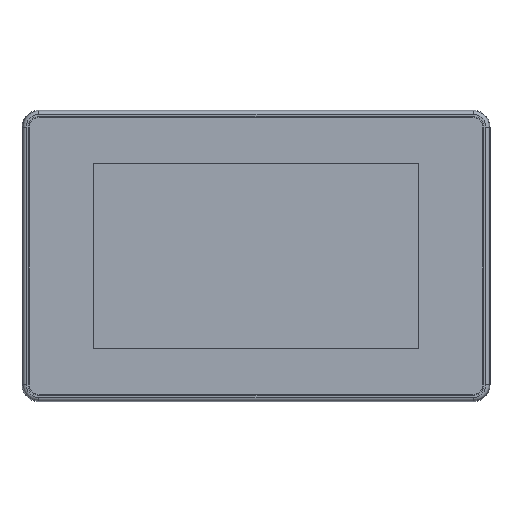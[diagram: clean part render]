
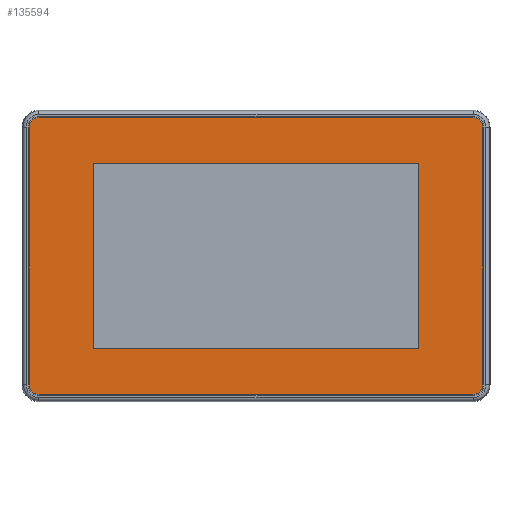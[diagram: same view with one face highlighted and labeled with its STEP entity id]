
A CAD part, top view. The second image highlights one B-rep face of the part: STEP entity #135594.
In plain terms, the highlighted planar face has unit normal (0, 0, 1).
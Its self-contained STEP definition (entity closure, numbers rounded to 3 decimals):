
#118132=DIRECTION('',(0.,-1.,0.));
#118133=VECTOR('',#118132,75.715);
#118134=CARTESIAN_POINT('',(-66.857,37.857,5.88));
#118135=LINE('',#118134,#118133);
#118148=CARTESIAN_POINT('',(63.857,37.857,5.88));
#118149=DIRECTION('',(0.,0.,-1.));
#118150=DIRECTION('',(0.,1.,0.));
#118151=AXIS2_PLACEMENT_3D('',#118148,#118149,#118150);
#118153=DIRECTION('',(0.,-1.,0.));
#118154=VECTOR('',#118153,75.715);
#118155=CARTESIAN_POINT('',(66.857,37.857,5.88));
#118156=LINE('',#118155,#118154);
#118157=CARTESIAN_POINT('',(63.857,-37.857,5.88));
#118158=DIRECTION('',(0.,0.,-1.));
#118159=DIRECTION('',(1.,0.,0.));
#118160=AXIS2_PLACEMENT_3D('',#118157,#118158,#118159);
#118162=DIRECTION('',(-1.,0.,0.));
#118163=VECTOR('',#118162,127.715);
#118164=CARTESIAN_POINT('',(63.857,-40.857,5.88));
#118165=LINE('',#118164,#118163);
#118166=CARTESIAN_POINT('',(-63.857,-37.857,5.88));
#118167=DIRECTION('',(0.,0.,-1.));
#118168=DIRECTION('',(0.,-1.,0.));
#118169=AXIS2_PLACEMENT_3D('',#118166,#118167,#118168);
#118171=CARTESIAN_POINT('',(-63.857,37.857,5.88));
#118172=DIRECTION('',(0.,0.,-1.));
#118173=DIRECTION('',(-1.,0.,0.));
#118174=AXIS2_PLACEMENT_3D('',#118171,#118172,#118173);
#118176=DIRECTION('',(1.,0.,0.));
#118177=VECTOR('',#118176,127.715);
#118178=CARTESIAN_POINT('',(-63.857,40.857,5.88));
#118179=LINE('',#118178,#118177);
#118180=DIRECTION('',(0.,1.,0.));
#118181=VECTOR('',#118180,54.36);
#118182=CARTESIAN_POINT('',(-47.77,-27.18,5.88));
#118183=LINE('',#118182,#118181);
#118188=DIRECTION('',(1.,0.,0.));
#118189=VECTOR('',#118188,95.54);
#118190=CARTESIAN_POINT('',(-47.77,27.18,5.88));
#118191=LINE('',#118190,#118189);
#118196=DIRECTION('',(0.,-1.,0.));
#118197=VECTOR('',#118196,54.36);
#118198=CARTESIAN_POINT('',(47.77,27.18,5.88));
#118199=LINE('',#118198,#118197);
#118204=DIRECTION('',(-1.,0.,0.));
#118205=VECTOR('',#118204,95.54);
#118206=CARTESIAN_POINT('',(47.77,-27.18,5.88));
#118207=LINE('',#118206,#118205);
#123107=CARTESIAN_POINT('',(66.857,37.857,5.88));
#123108=VERTEX_POINT('',#123107);
#123109=CARTESIAN_POINT('',(63.857,40.857,5.88));
#123110=VERTEX_POINT('',#123109);
#123111=CARTESIAN_POINT('',(66.857,-37.857,5.88));
#123112=VERTEX_POINT('',#123111);
#123113=CARTESIAN_POINT('',(63.857,-40.857,5.88));
#123114=VERTEX_POINT('',#123113);
#123115=CARTESIAN_POINT('',(-63.857,-40.857,5.88));
#123116=VERTEX_POINT('',#123115);
#123117=CARTESIAN_POINT('',(-66.857,-37.857,5.88));
#123118=VERTEX_POINT('',#123117);
#123119=CARTESIAN_POINT('',(-66.857,37.857,5.88));
#123120=VERTEX_POINT('',#123119);
#123121=CARTESIAN_POINT('',(-63.857,40.857,5.88));
#123122=VERTEX_POINT('',#123121);
#123123=CARTESIAN_POINT('',(-47.77,-27.18,5.88));
#123124=CARTESIAN_POINT('',(-47.77,27.18,5.88));
#123125=VERTEX_POINT('',#123123);
#123126=VERTEX_POINT('',#123124);
#123127=CARTESIAN_POINT('',(47.77,-27.18,5.88));
#123128=VERTEX_POINT('',#123127);
#123129=CARTESIAN_POINT('',(47.77,27.18,5.88));
#123130=VERTEX_POINT('',#123129);
#135569=CARTESIAN_POINT('',(0.,0.,5.88));
#135570=DIRECTION('',(0.,0.,1.));
#135571=DIRECTION('',(1.,0.,0.));
#135572=AXIS2_PLACEMENT_3D('',#135569,#135570,#135571);
#135573=PLANE('',#135572);
#135574=ORIENTED_EDGE('',*,*,#135465,.T.);
#135575=ORIENTED_EDGE('',*,*,#135480,.T.);
#135576=ORIENTED_EDGE('',*,*,#135494,.T.);
#135577=ORIENTED_EDGE('',*,*,#135508,.T.);
#135578=ORIENTED_EDGE('',*,*,#135522,.T.);
#135579=ORIENTED_EDGE('',*,*,#135536,.F.);
#135580=ORIENTED_EDGE('',*,*,#135550,.T.);
#135581=ORIENTED_EDGE('',*,*,#135563,.T.);
#135582=EDGE_LOOP('',(#135574,#135575,#135576,#135577,#135578,#135579,#135580,
#135581));
#135583=FACE_OUTER_BOUND('',#135582,.F.);
#135585=ORIENTED_EDGE('',*,*,#135584,.F.);
#135587=ORIENTED_EDGE('',*,*,#135586,.F.);
#135589=ORIENTED_EDGE('',*,*,#135588,.F.);
#135591=ORIENTED_EDGE('',*,*,#135590,.F.);
#135592=EDGE_LOOP('',(#135585,#135587,#135589,#135591));
#135593=FACE_BOUND('',#135592,.F.);
#135594=ADVANCED_FACE('',(#135583,#135593),#135573,.T.);
#118152=CIRCLE('',#118151,3.);
#118161=CIRCLE('',#118160,3.);
#118170=CIRCLE('',#118169,3.);
#118175=CIRCLE('',#118174,3.);
#135465=EDGE_CURVE('',#123110,#123108,#118152,.T.);
#135480=EDGE_CURVE('',#123108,#123112,#118156,.T.);
#135494=EDGE_CURVE('',#123112,#123114,#118161,.T.);
#135508=EDGE_CURVE('',#123114,#123116,#118165,.T.);
#135522=EDGE_CURVE('',#123116,#123118,#118170,.T.);
#135536=EDGE_CURVE('',#123120,#123118,#118135,.T.);
#135550=EDGE_CURVE('',#123120,#123122,#118175,.T.);
#135563=EDGE_CURVE('',#123122,#123110,#118179,.T.);
#135584=EDGE_CURVE('',#123125,#123126,#118183,.T.);
#135586=EDGE_CURVE('',#123128,#123125,#118207,.T.);
#135588=EDGE_CURVE('',#123130,#123128,#118199,.T.);
#135590=EDGE_CURVE('',#123126,#123130,#118191,.T.);
